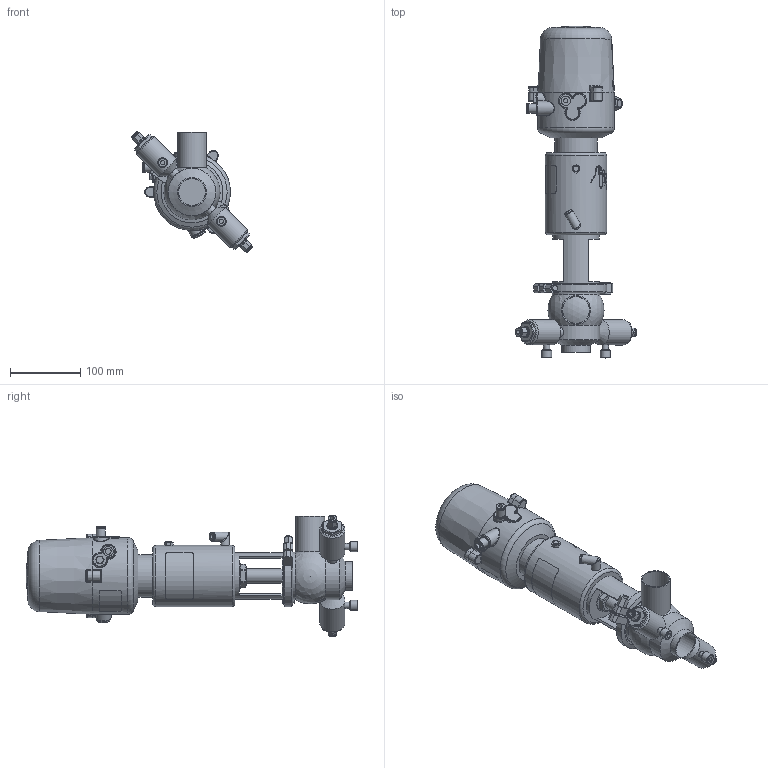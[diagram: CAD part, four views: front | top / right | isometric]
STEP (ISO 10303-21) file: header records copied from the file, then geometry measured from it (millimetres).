
FILE_DESCRIPTION (( 'STEP AP214' ), '1' );
FILE_NAME ('INNOVA D L W DIN 040 T1 AS NC & C-TOP S_10.246.16.0003.STEP', '2024-08-08T09:41:30', ( '' ), ( '' ), 'SwSTEP 2.0', 'SolidWorks 2023', '' );
FILE_SCHEMA (( 'AUTOMOTIVE_DESIGN' ));
Length unit declared in the file: millimetre
Products named in the file (7): 10.426.15.0001_C-TOP S - 1 EV; 10.240.15.0010_DN 040; 10.240.15.0017_Estàndard; 10.240.15.0014_T1 AS P0; 10.246.15.0001_DIN 040; 10.240.15.0001_DN 040; INNOVA D L W DIN 040 T1 AS NC & C-TOP S_10.246.16.0003
Assembly tree (6 placements, depth 2):
  INNOVA D L W DIN 040 T1 AS NC & C-TOP S_10.246.16.0003
    10.246.15.0001_DIN 040
    10.240.15.0010_DN 040
    10.240.15.0014_T1 AS P0
    10.240.15.0017_Estàndard
    10.426.15.0001_C-TOP S - 1 EV
    10.240.15.0001_DN 040
Bounding box: 173.38 x 472 x 173.38 mm (x, y, z)
Volume: 2713859 mm3; surface area: 245408.1 mm2
Topology: 6 solids, 6 shells, 1195 faces, 2838 edges, 1882 vertices
Faces by surface type: plane 441, cylinder 350, cone 202, bspline 160, torus 36, sphere 6
Full cylindrical faces by diameter (mm): 0.371 x17, 0.512 x16, 0.658 x16, 0.795 x16, 0.94 x15, 1.098 x15, 1.241 x13, 1.382 x13, 1.523 x11, 1.669 x10, 2.201 x1, 4 x2, 5.5 x2, 6 x6, 6.15 x1, 8 x4, 8.5 x1, 9 x2, 10 x3, 10.5 x1, 11 x2, 12 x4, 12.5 x3, 13 x2, 13.5 x2, 14 x4, 15 x2, 16 x1, 17 x3, 20 x3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
Entity records: 59244 total; most frequent: CARTESIAN_POINT 27389, ORIENTED_EDGE 4812, DIRECTION 3997, EDGE_CURVE 2406, VERTEX_POINT 1709, EDGE_LOOP 1691, AXIS2_PLACEMENT_3D 1616, FACE_OUTER_BOUND 1426
